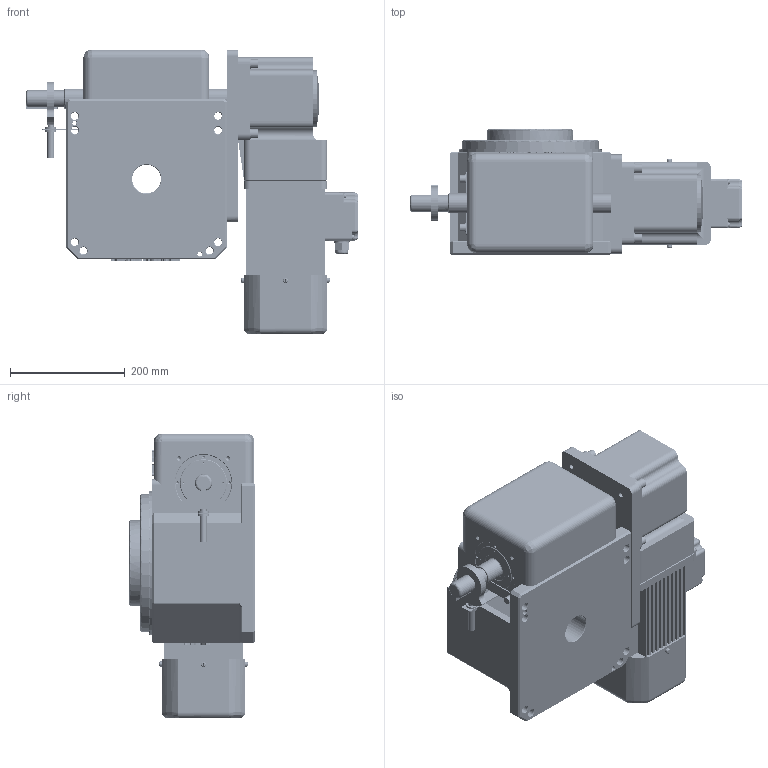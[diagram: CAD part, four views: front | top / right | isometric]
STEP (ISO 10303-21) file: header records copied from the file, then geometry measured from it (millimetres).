
FILE_DESCRIPTION (( 'STEP AP214' ), '1' );
FILE_NAME ('ER-RU140DT英锐凸轮分割器固定盘壳体法兰面销孔3D水平直联式右侧JY(电话15062628977)AA.STEP', '2022-11-10T06:47:37', ( '微软用户' ), ( '微软中国' ), 'SwSTEP 2.0', 'SolidWorks 2017', '' );
FILE_SCHEMA (( 'AUTOMOTIVE_DESIGN' ));
Length unit declared in the file: millimetre
Products named in the file (1): ER-RU140DT英锐凸轮分割器固定盘壳体法兰面销孔3D水平直联式右侧JY(电话15062628977)AA
Bounding box: 579 x 220 x 497 mm (x, y, z)
Volume: 26592065.2 mm3; surface area: 1230630.7 mm2
Topology: 3 solids, 12 shells, 3471 faces, 9370 edges, 6018 vertices
Faces by surface type: plane 1567, cylinder 1031, bspline 551, cone 318, torus 4
Entity records: 225638 total; most frequent: CARTESIAN_POINT 122467, ORIENTED_EDGE 18532, DIRECTION 13375, EDGE_CURVE 9266, VERTEX_POINT 6018, LINE 5605, VECTOR 5605, AXIS2_PLACEMENT_3D 3885
